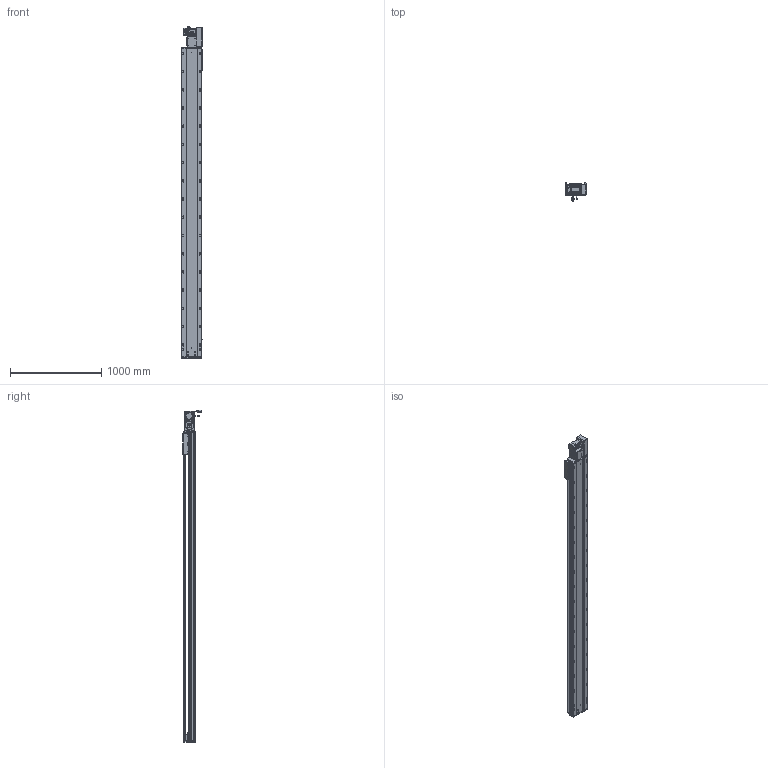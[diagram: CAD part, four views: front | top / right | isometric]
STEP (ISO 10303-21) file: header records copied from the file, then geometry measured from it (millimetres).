
FILE_DESCRIPTION (( 'STEP AP203' ), '1' );
FILE_NAME ('RY220-T-300-RK.SLDASM_3050.step', '2022-07-25T08:25:53', ( '' ), ( '' ), 'SwSTEP 2.0', 'SolidWorks 2016', '' );
FILE_SCHEMA (( 'CONFIG_CONTROL_DESIGN' ));
Length unit declared in the file: millimetre
Products named in the file (14): RY220-俋离672覜茼んえ; RY220-T菁釱-300_3050; 怢湛750W_ECMA-CX0807ES; RY220-T-湍謫欶(鍼踢); 110A-T-肮祭謫釱傷裔; RY220翋肮祭謫裔啣; RY220-同步轮副支撑座6304×2; RY220翋肮祭謫釱; RY220圉猾敕々湍臏賑輸; 覜茼ん672; RY220-T-蛌殏萇儂假蚾啣(750W); RY220-T-300-奻裔啣_3050; 滅袉蝶18-15; RY220-T-300-RK.SLDASM_3050
Assembly tree (18 placements, depth 2):
  RY220-T-300-RK.SLDASM_3050
    RY220-T菁釱-300_3050
    RY220翋肮祭謫釱
    覜茼ん672  x3
    RY220圉猾敕々湍臏賑輸
    RY220-T-300-奻裔啣_3050
    RY220-俋离672覜茼んえ
    滅袉蝶18-15  x3
    RY220翋肮祭謫裔啣  x2
    110A-T-肮祭謫釱傷裔
    怢湛750W_ECMA-CX0807ES
    RY220-T-湍謫欶(鍼踢)
    RY220-T-蛌殏萇儂假蚾啣(750W)
    RY220-同步轮副支撑座6304×2
Bounding box: 238.7 x 198.77 x 3645.24 mm (x, y, z)
Volume: 25523410.8 mm3; surface area: 7905398.2 mm2
Topology: 19 solids, 19 shells, 3050 faces, 8443 edges, 5282 vertices
Faces by surface type: cylinder 1514, plane 1069, cone 385, bspline 56, sphere 16, torus 10
Entity records: 101827 total; most frequent: CARTESIAN_POINT 28715, ORIENTED_EDGE 15098, DIRECTION 14608, EDGE_CURVE 7549, AXIS2_PLACEMENT_3D 5284, VERTEX_POINT 4906, VECTOR 4040, LINE 4040
